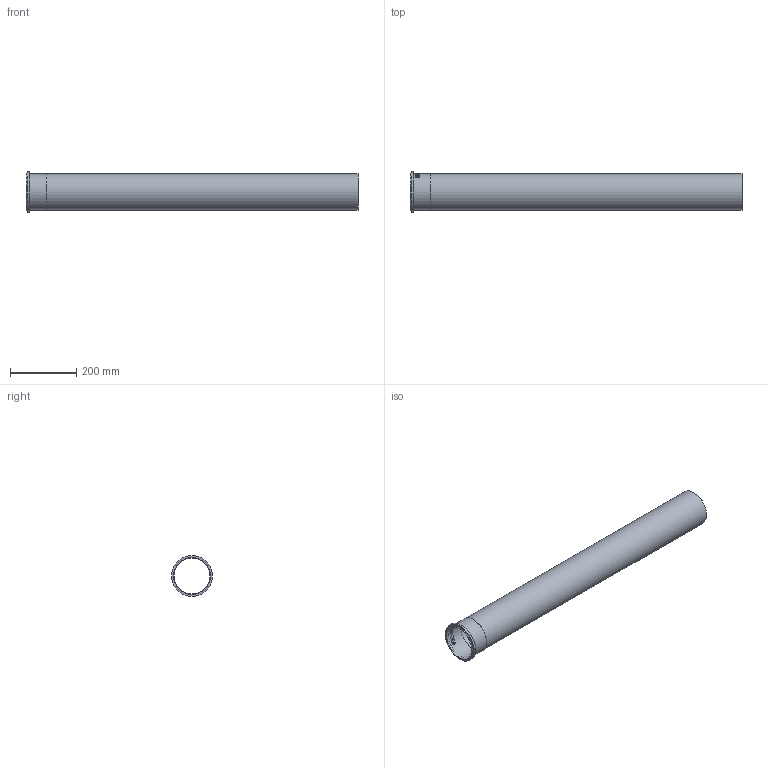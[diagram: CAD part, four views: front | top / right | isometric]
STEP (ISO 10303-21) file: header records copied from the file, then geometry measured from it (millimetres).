
FILE_DESCRIPTION((''),'2;1');
FILE_NAME('I:\WATTS\3D_CAD\3D_CAD_Models\Blucher_Drains\P_StraightPipe\WebsiteFiles\3D\STEP\P4-3.3-316.stp','2009-12-02T14:21:08',('menesek'),(''),'Autodesk Inventor 2010','Autodesk Inventor 2010','');
FILE_SCHEMA(('AUTOMOTIVE_DESIGN { 1 0 10303 214 1 1 1 1 }'));
Length unit declared in the file: inch
Products named in the file (1): P4-3.3-316
Bounding box: 1000 x 122.94 x 122.94 mm (x, y, z)
Volume: 375042.3 mm3; surface area: 690680.5 mm2
Topology: 1 solids, 1 shells, 109 faces, 285 edges, 190 vertices
Faces by surface type: plane 59, bspline 34, cylinder 16
Full cylindrical faces by diameter (mm): 107.95 x1, 109.982 x1, 111.252 x2, 122.936 x1
Entity records: 13900 total; most frequent: CARTESIAN_POINT 11522, ORIENTED_EDGE 548, DIRECTION 356, EDGE_CURVE 274, VERTEX_POINT 186, EDGE_LOOP 128, AXIS2_PLACEMENT_3D 120, VECTOR 116
